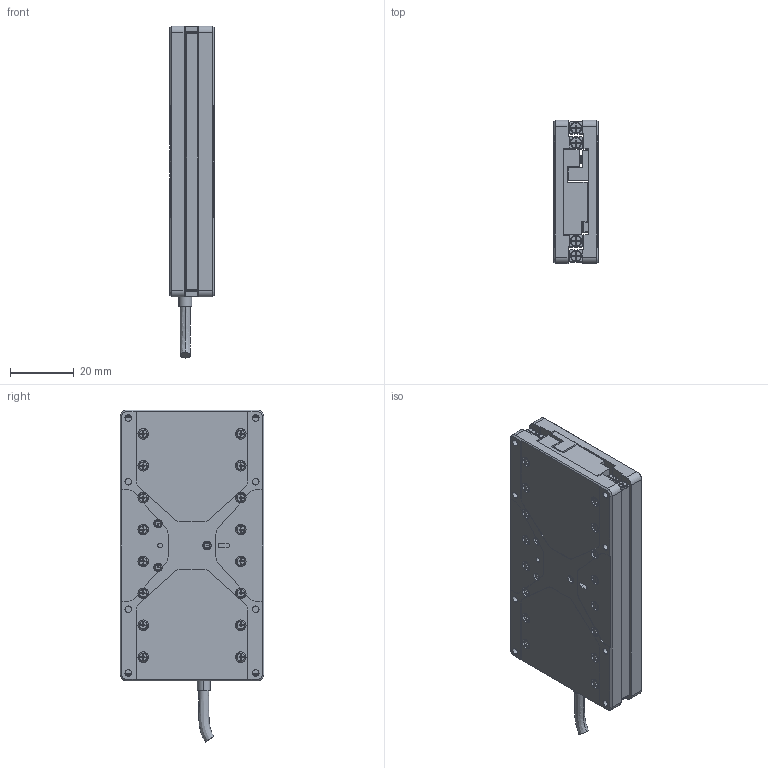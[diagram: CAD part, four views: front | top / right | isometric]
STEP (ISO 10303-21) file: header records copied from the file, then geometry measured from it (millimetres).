
FILE_DESCRIPTION (( 'STEP AP214' ), '1' );
FILE_NAME ('LS 854514_Rendrering.STEP', '2021-11-02T18:23:47', ( '' ), ( '' ), 'SwSTEP 2.0', 'SolidWorks 2016', '' );
FILE_SCHEMA (( 'AUTOMOTIVE_DESIGN' ));
Length unit declared in the file: millimetre
Products named in the file (15): Top; SV1080_21Z_3; SNZS_M1_6_6; FrontConnector; Cable; Linear scale 15,6; Tryckskruvholder; SNZS_M2_8; Base; Tryckstiftholder; BackConnector; Part3^LS 854514_Rendrering; LS 854514_Rendrering; PACK-SMIB1_6-2_2_14; Scaleholder
Assembly tree (52 placements, depth 2):
  Part3^LS 854514_Rendrering
  LS 854514_Rendrering
    Base
    Top
    Tryckstiftholder
    Tryckskruvholder
    Linear scale 15,6
    FrontConnector
    PACK-SMIB1_6-2_2_14  x4
    Scaleholder
    BackConnector
    SV1080_21Z_3  x4
    Cable
    SNZS_M2_8  x32
    SNZS_M1_6_6  x3
Bounding box: 14 x 45 x 104.13 mm (x, y, z)
Volume: 38358 mm3; surface area: 35851.7 mm2
Topology: 52 solids, 52 shells, 2819 faces, 6415 edges, 3808 vertices
Faces by surface type: plane 1630, cylinder 633, cone 382, torus 140, bspline 34
Entity records: 34368 total; most frequent: CARTESIAN_POINT 5701, DIRECTION 5685, ORIENTED_EDGE 5024, EDGE_CURVE 2512, AXIS2_PLACEMENT_3D 2129, VERTEX_POINT 1606, LINE 1427, VECTOR 1427
